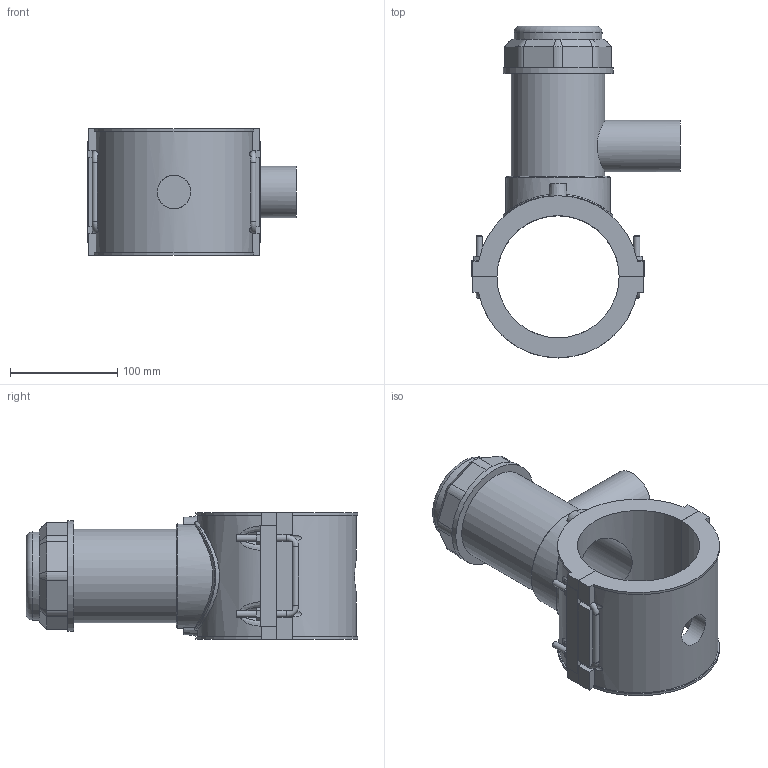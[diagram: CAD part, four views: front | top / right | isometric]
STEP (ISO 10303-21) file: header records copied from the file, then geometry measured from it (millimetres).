
FILE_DESCRIPTION(/* description */ ('PLASSON TAPPING SADDLE 4''''IPS x 1 1/2''''IPS'),/* implementation_level */ '2;1');
FILE_NAME(/* name */ 'C:\Dropbox\KIMPROJECTS-Inventor 2019\99-16-3568-Processing Inch\ASTM ElectroFusion 2021\5963B\5963BB03040015.ipt.stp',/* time_stamp */ '2021-08-30T09:55:25+03:00',/* author */ ('KIM'),/* organization */ (''),/* preprocessor_version */ 'ST-DEVELOPER v17.2',/* originating_system */ 'Autodesk Inventor 2019',/* authorisation */ '');
FILE_SCHEMA (('AUTOMOTIVE_DESIGN { 1 0 10303 214 3 1 1 }'));
Length unit declared in the file: millimetre
Products named in the file (1): 5963BB03040015
Bounding box: 194.55 x 309.74 x 118.11 mm (x, y, z)
Volume: 1410967.9 mm3; surface area: 234124.3 mm2
Topology: 1 solids, 1 shells, 216 faces, 587 edges, 384 vertices
Faces by surface type: plane 126, cylinder 60, cone 15, torus 9, bspline 6
Full cylindrical faces by diameter (mm): 6 x7, 31.36 x1, 38.48 x1, 48.1 x1, 71.883 x1, 82.152 x1, 87.287 x1, 97.555 x1, 102.69 x1
Entity records: 8650 total; most frequent: CARTESIAN_POINT 3112, ORIENTED_EDGE 1196, DIRECTION 1093, EDGE_CURVE 598, VERTEX_POINT 384, AXIS2_PLACEMENT_3D 377, LINE 339, VECTOR 339
